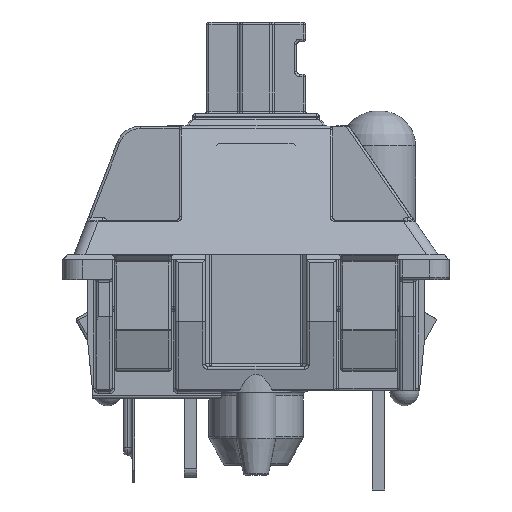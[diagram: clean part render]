
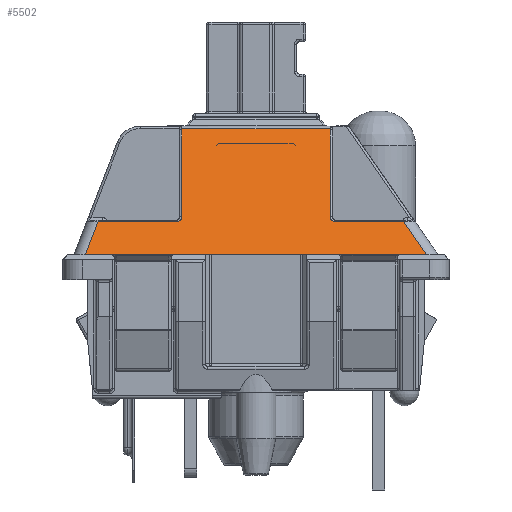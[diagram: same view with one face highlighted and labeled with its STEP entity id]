
A CAD part, left-side view. The second image highlights one B-rep face of the part: STEP entity #5502.
In plain terms, the highlighted planar face has unit normal (-0.914, 0, 0.405).
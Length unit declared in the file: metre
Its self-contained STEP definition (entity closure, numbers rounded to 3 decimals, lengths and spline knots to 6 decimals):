
#5444 = EDGE_CURVE( '', #15896, #15897, #15898, .T. );
#5502 = ADVANCED_FACE( '', ( #16000 ), #16001, .F. );
#5632 = EDGE_CURVE( '', #16240, #16241, #16242, .T. );
#7766 = EDGE_CURVE( '', #15897, #16846, #19695, .T. );
#8204 = EDGE_CURVE( '', #20343, #16240, #20344, .T. );
#8826 = EDGE_CURVE( '', #20936, #21223, #21224, .T. );
#8956 = EDGE_CURVE( '', #16846, #17220, #21401, .T. );
#10504 = EDGE_CURVE( '', #21223, #23452, #23453, .T. );
#12140 = EDGE_CURVE( '', #17220, #20343, #25494, .T. );
#12778 = EDGE_CURVE( '', #16241, #20936, #26256, .T. );
#12878 = EDGE_CURVE( '', #23452, #15896, #26376, .T. );
#15896 = VERTEX_POINT( '', #30042 );
#15897 = VERTEX_POINT( '', #30043 );
#15898 = B_SPLINE_CURVE_WITH_KNOTS( '', 3, ( #30044, #30045, #30046, #30047, #30048, #30049 ), .UNSPECIFIED., .F., .F., ( 4, 2, 4 ), ( 0., 0.5, 1. ), .UNSPECIFIED. );
#16000 = FACE_OUTER_BOUND( '', #30188, .T. );
#16001 = PLANE( '', #30189 );
#16240 = VERTEX_POINT( '', #30556 );
#16241 = VERTEX_POINT( '', #30557 );
#16242 = LINE( '', #30558, #30559 );
#16846 = VERTEX_POINT( '', #31531 );
#17220 = VERTEX_POINT( '', #32099 );
#19695 = LINE( '', #35843, #35844 );
#20343 = VERTEX_POINT( '', #36929 );
#20344 = B_SPLINE_CURVE_WITH_KNOTS( '', 3, ( #36930, #36931, #36932, #36933, #36934, #36935 ), .UNSPECIFIED., .F., .F., ( 4, 2, 4 ), ( 0., 0.5, 1. ), .UNSPECIFIED. );
#20936 = VERTEX_POINT( '', #37897 );
#21223 = VERTEX_POINT( '', #38326 );
#21224 = LINE( '', #38327, #38328 );
#21401 = LINE( '', #38620, #38621 );
#23452 = VERTEX_POINT( '', #42107 );
#23453 = LINE( '', #42108, #42109 );
#25494 = LINE( '', #45534, #45535 );
#26256 = LINE( '', #46987, #46988 );
#26376 = LINE( '', #47192, #47193 );
#30042 = CARTESIAN_POINT( '', ( -0.006722, 0.003234, 0.007367 ) );
#30043 = CARTESIAN_POINT( '', ( -0.006634, 0.003034, 0.007567 ) );
#30044 = CARTESIAN_POINT( '', ( -0.006722, 0.003234, 0.007367 ) );
#30045 = CARTESIAN_POINT( '', ( -0.006722, 0.003182, 0.007367 ) );
#30046 = CARTESIAN_POINT( '', ( -0.006713, 0.00313, 0.007389 ) );
#30047 = CARTESIAN_POINT( '', ( -0.00668, 0.003056, 0.007463 ) );
#30048 = CARTESIAN_POINT( '', ( -0.006657, 0.003034, 0.007515 ) );
#30049 = CARTESIAN_POINT( '', ( -0.006634, 0.003034, 0.007567 ) );
#30188 = EDGE_LOOP( '', ( #53027, #53028, #53029, #53030, #53031, #53032, #53033, #53034, #53035, #53036 ) );
#30189 = AXIS2_PLACEMENT_3D( '', #53037, #53038, #53039 );
#30556 = CARTESIAN_POINT( '', ( -0.006722, -0.003166, 0.007367 ) );
#30557 = CARTESIAN_POINT( '', ( -0.006722, -0.005919, 0.007367 ) );
#30558 = CARTESIAN_POINT( '', ( -0.006722, 0.007384, 0.007367 ) );
#30559 = VECTOR( '', #53282, 1. );
#31531 = CARTESIAN_POINT( '', ( -0.005068, 0.003034, 0.011108 ) );
#32099 = CARTESIAN_POINT( '', ( -0.005068, -0.002966, 0.011108 ) );
#35843 = CARTESIAN_POINT( '', ( -0.005015, 0.003034, 0.011227 ) );
#35844 = VECTOR( '', #57366, 1. );
#36929 = CARTESIAN_POINT( '', ( -0.006634, -0.002966, 0.007567 ) );
#36930 = CARTESIAN_POINT( '', ( -0.006634, -0.002966, 0.007567 ) );
#36931 = CARTESIAN_POINT( '', ( -0.006657, -0.002966, 0.007515 ) );
#36932 = CARTESIAN_POINT( '', ( -0.00668, -0.002987, 0.007463 ) );
#36933 = CARTESIAN_POINT( '', ( -0.006713, -0.003061, 0.007389 ) );
#36934 = CARTESIAN_POINT( '', ( -0.006722, -0.003113, 0.007367 ) );
#36935 = CARTESIAN_POINT( '', ( -0.006722, -0.003166, 0.007367 ) );
#37897 = CARTESIAN_POINT( '', ( -0.007315, -0.006847, 0.006027 ) );
#38326 = CARTESIAN_POINT( '', ( -0.007315, 0.006926, 0.006027 ) );
#38327 = CARTESIAN_POINT( '', ( -0.007315, 0.007384, 0.006027 ) );
#38328 = VECTOR( '', #59384, 1. );
#38620 = CARTESIAN_POINT( '', ( -0.005068, 0.007384, 0.011108 ) );
#38621 = VECTOR( '', #59617, 1. );
#42107 = CARTESIAN_POINT( '', ( -0.006722, 0.006411, 0.007367 ) );
#42108 = CARTESIAN_POINT( '', ( -0.007315, 0.006926, 0.006027 ) );
#42109 = VECTOR( '', #62624, 1. );
#45534 = CARTESIAN_POINT( '', ( -0.005015, -0.002966, 0.011227 ) );
#45535 = VECTOR( '', #65788, 1. );
#46987 = CARTESIAN_POINT( '', ( -0.006722, -0.005919, 0.007367 ) );
#46988 = VECTOR( '', #66971, 1. );
#47192 = CARTESIAN_POINT( '', ( -0.006722, 0.007384, 0.007367 ) );
#47193 = VECTOR( '', #67152, 1. );
#53027 = ORIENTED_EDGE( '', *, *, #8956, .F. );
#53028 = ORIENTED_EDGE( '', *, *, #7766, .F. );
#53029 = ORIENTED_EDGE( '', *, *, #5444, .F. );
#53030 = ORIENTED_EDGE( '', *, *, #12878, .F. );
#53031 = ORIENTED_EDGE( '', *, *, #10504, .F. );
#53032 = ORIENTED_EDGE( '', *, *, #8826, .F. );
#53033 = ORIENTED_EDGE( '', *, *, #12778, .F. );
#53034 = ORIENTED_EDGE( '', *, *, #5632, .F. );
#53035 = ORIENTED_EDGE( '', *, *, #8204, .F. );
#53036 = ORIENTED_EDGE( '', *, *, #12140, .F. );
#53037 = CARTESIAN_POINT( '', ( -0.005015, 0.007384, 0.011227 ) );
#53038 = DIRECTION( '', ( 0.915, 0., -0.405 ) );
#53039 = DIRECTION( '', ( 0., -1., 0. ) );
#53282 = DIRECTION( '', ( 0., -1., 0. ) );
#57366 = DIRECTION( '', ( 0.405, 0., 0.915 ) );
#59384 = DIRECTION( '', ( 0., 1., 0. ) );
#59617 = DIRECTION( '', ( 0., -1., 0. ) );
#62624 = DIRECTION( '', ( 0.382, -0.332, 0.863 ) );
#65788 = DIRECTION( '', ( -0.405, 0., -0.915 ) );
#66971 = DIRECTION( '', ( -0.342, -0.535, -0.773 ) );
#67152 = DIRECTION( '', ( 0., -1., 0. ) );
